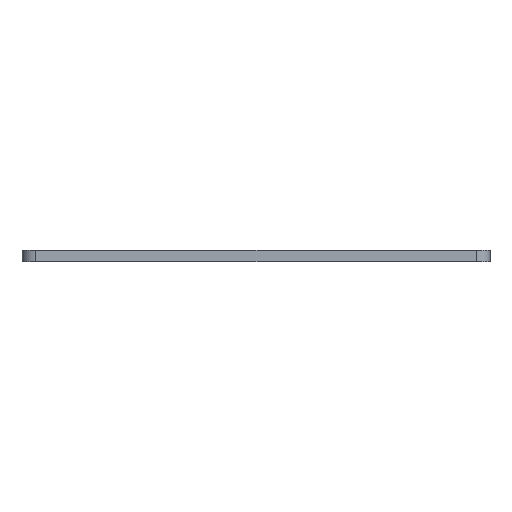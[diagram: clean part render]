
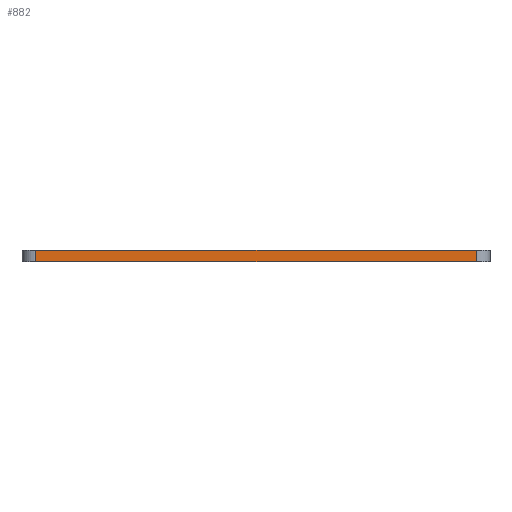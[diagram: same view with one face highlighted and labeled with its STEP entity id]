
A CAD part, left-side view. The second image highlights one B-rep face of the part: STEP entity #882.
In plain terms, the highlighted planar face has unit normal (-1, 0, 0).
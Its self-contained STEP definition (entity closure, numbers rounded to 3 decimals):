
#44 = PLANE('',#45);
#45 = AXIS2_PLACEMENT_3D('',#46,#47,#48);
#46 = CARTESIAN_POINT('',(48.,-33.5,-27.9));
#47 = DIRECTION('',(0.,0.,1.));
#48 = DIRECTION('',(1.,0.,0.));
#100 = PLANE('',#101);
#101 = AXIS2_PLACEMENT_3D('',#102,#103,#104);
#102 = CARTESIAN_POINT('',(48.,-33.5,-29.5));
#103 = DIRECTION('',(0.,0.,1.));
#104 = DIRECTION('',(1.,0.,0.));
#199 = VERTEX_POINT('',#200);
#200 = CARTESIAN_POINT('',(-32.,-31.5,-27.9));
#215 = CYLINDRICAL_SURFACE('',#216,2.);
#216 = AXIS2_PLACEMENT_3D('',#217,#218,#219);
#217 = CARTESIAN_POINT('',(-30.,-31.5,-29.5));
#218 = DIRECTION('',(-0.,-0.,1.));
#219 = DIRECTION('',(-1.,-0.,-0.));
#227 = EDGE_CURVE('',#199,#228,#230,.T.);
#228 = VERTEX_POINT('',#229);
#229 = CARTESIAN_POINT('',(-32.,31.5,-27.9));
#230 = SURFACE_CURVE('',#231,(#235,#242),.PCURVE_S1.);
#231 = LINE('',#232,#233);
#232 = CARTESIAN_POINT('',(-32.,-33.5,-27.9));
#233 = VECTOR('',#234,1.);
#234 = DIRECTION('',(-0.,1.,0.));
#235 = PCURVE('',#44,#236);
#236 = DEFINITIONAL_REPRESENTATION('',(#237),#241);
#237 = LINE('',#238,#239);
#238 = CARTESIAN_POINT('',(-80.,0.));
#239 = VECTOR('',#240,1.);
#240 = DIRECTION('',(-0.,1.));
#241 = ( GEOMETRIC_REPRESENTATION_CONTEXT(2) 
PARAMETRIC_REPRESENTATION_CONTEXT() REPRESENTATION_CONTEXT('2D SPACE',''
  ) );
#242 = PCURVE('',#243,#248);
#243 = PLANE('',#244);
#244 = AXIS2_PLACEMENT_3D('',#245,#246,#247);
#245 = CARTESIAN_POINT('',(-32.,-33.5,-29.5));
#246 = DIRECTION('',(-1.,-0.,0.));
#247 = DIRECTION('',(0.,0.,-1.));
#248 = DEFINITIONAL_REPRESENTATION('',(#249),#253);
#249 = LINE('',#250,#251);
#250 = CARTESIAN_POINT('',(-1.6,-0.));
#251 = VECTOR('',#252,1.);
#252 = DIRECTION('',(-0.,-1.));
#253 = ( GEOMETRIC_REPRESENTATION_CONTEXT(2) 
PARAMETRIC_REPRESENTATION_CONTEXT() REPRESENTATION_CONTEXT('2D SPACE',''
  ) );
#276 = CYLINDRICAL_SURFACE('',#277,2.);
#277 = AXIS2_PLACEMENT_3D('',#278,#279,#280);
#278 = CARTESIAN_POINT('',(-30.,31.5,-29.5));
#279 = DIRECTION('',(-0.,-0.,1.));
#280 = DIRECTION('',(-1.,-0.,-0.));
#585 = VERTEX_POINT('',#586);
#586 = CARTESIAN_POINT('',(-32.,-31.5,-29.5));
#608 = EDGE_CURVE('',#585,#609,#611,.T.);
#609 = VERTEX_POINT('',#610);
#610 = CARTESIAN_POINT('',(-32.,31.5,-29.5));
#611 = SURFACE_CURVE('',#612,(#616,#623),.PCURVE_S1.);
#612 = LINE('',#613,#614);
#613 = CARTESIAN_POINT('',(-32.,-33.5,-29.5));
#614 = VECTOR('',#615,1.);
#615 = DIRECTION('',(-0.,1.,0.));
#616 = PCURVE('',#100,#617);
#617 = DEFINITIONAL_REPRESENTATION('',(#618),#622);
#618 = LINE('',#619,#620);
#619 = CARTESIAN_POINT('',(-80.,0.));
#620 = VECTOR('',#621,1.);
#621 = DIRECTION('',(-0.,1.));
#622 = ( GEOMETRIC_REPRESENTATION_CONTEXT(2) 
PARAMETRIC_REPRESENTATION_CONTEXT() REPRESENTATION_CONTEXT('2D SPACE',''
  ) );
#623 = PCURVE('',#243,#624);
#624 = DEFINITIONAL_REPRESENTATION('',(#625),#629);
#625 = LINE('',#626,#627);
#626 = CARTESIAN_POINT('',(-0.,-0.));
#627 = VECTOR('',#628,1.);
#628 = DIRECTION('',(-0.,-1.));
#629 = ( GEOMETRIC_REPRESENTATION_CONTEXT(2) 
PARAMETRIC_REPRESENTATION_CONTEXT() REPRESENTATION_CONTEXT('2D SPACE',''
  ) );
#835 = EDGE_CURVE('',#585,#199,#836,.T.);
#836 = SURFACE_CURVE('',#837,(#841,#848),.PCURVE_S1.);
#837 = LINE('',#838,#839);
#838 = CARTESIAN_POINT('',(-32.,-31.5,-29.5));
#839 = VECTOR('',#840,1.);
#840 = DIRECTION('',(-0.,-0.,1.));
#841 = PCURVE('',#215,#842);
#842 = DEFINITIONAL_REPRESENTATION('',(#843),#847);
#843 = LINE('',#844,#845);
#844 = CARTESIAN_POINT('',(0.,0.));
#845 = VECTOR('',#846,1.);
#846 = DIRECTION('',(0.,1.));
#847 = ( GEOMETRIC_REPRESENTATION_CONTEXT(2) 
PARAMETRIC_REPRESENTATION_CONTEXT() REPRESENTATION_CONTEXT('2D SPACE',''
  ) );
#848 = PCURVE('',#243,#849);
#849 = DEFINITIONAL_REPRESENTATION('',(#850),#854);
#850 = LINE('',#851,#852);
#851 = CARTESIAN_POINT('',(-0.,-2.));
#852 = VECTOR('',#853,1.);
#853 = DIRECTION('',(-1.,-0.));
#854 = ( GEOMETRIC_REPRESENTATION_CONTEXT(2) 
PARAMETRIC_REPRESENTATION_CONTEXT() REPRESENTATION_CONTEXT('2D SPACE',''
  ) );
#862 = EDGE_CURVE('',#609,#228,#863,.T.);
#863 = SURFACE_CURVE('',#864,(#868,#875),.PCURVE_S1.);
#864 = LINE('',#865,#866);
#865 = CARTESIAN_POINT('',(-32.,31.5,-29.5));
#866 = VECTOR('',#867,1.);
#867 = DIRECTION('',(-0.,-0.,1.));
#868 = PCURVE('',#276,#869);
#869 = DEFINITIONAL_REPRESENTATION('',(#870),#874);
#870 = LINE('',#871,#872);
#871 = CARTESIAN_POINT('',(-0.,0.));
#872 = VECTOR('',#873,1.);
#873 = DIRECTION('',(-0.,1.));
#874 = ( GEOMETRIC_REPRESENTATION_CONTEXT(2) 
PARAMETRIC_REPRESENTATION_CONTEXT() REPRESENTATION_CONTEXT('2D SPACE',''
  ) );
#875 = PCURVE('',#243,#876);
#876 = DEFINITIONAL_REPRESENTATION('',(#877),#881);
#877 = LINE('',#878,#879);
#878 = CARTESIAN_POINT('',(-0.,-65.));
#879 = VECTOR('',#880,1.);
#880 = DIRECTION('',(-1.,-0.));
#881 = ( GEOMETRIC_REPRESENTATION_CONTEXT(2) 
PARAMETRIC_REPRESENTATION_CONTEXT() REPRESENTATION_CONTEXT('2D SPACE',''
  ) );
#882 = ADVANCED_FACE('',(#883),#243,.T.);
#883 = FACE_BOUND('',#884,.F.);
#884 = EDGE_LOOP('',(#885,#886,#887,#888));
#885 = ORIENTED_EDGE('',*,*,#227,.F.);
#886 = ORIENTED_EDGE('',*,*,#835,.F.);
#887 = ORIENTED_EDGE('',*,*,#608,.T.);
#888 = ORIENTED_EDGE('',*,*,#862,.T.);
